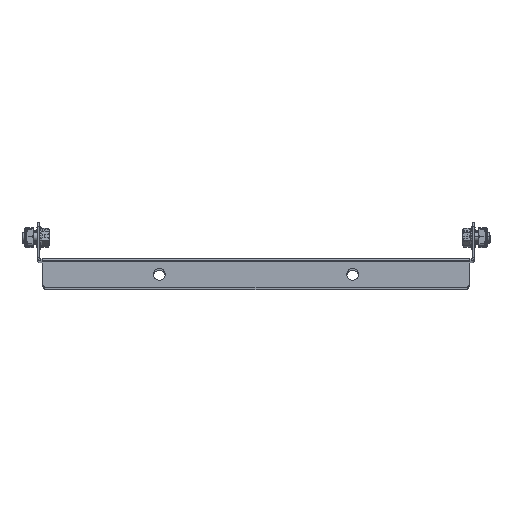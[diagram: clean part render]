
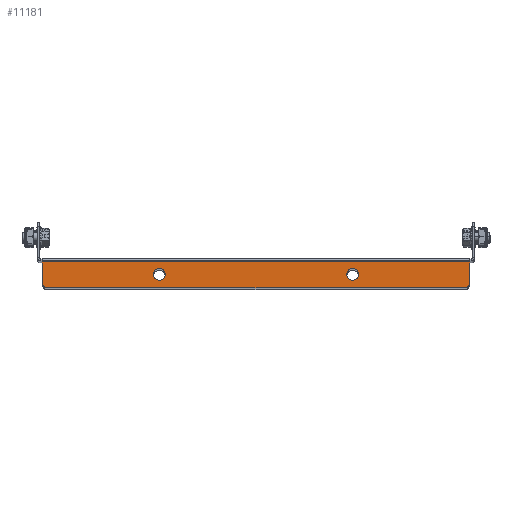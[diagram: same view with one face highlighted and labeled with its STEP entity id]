
A CAD part, top view. The second image highlights one B-rep face of the part: STEP entity #11181.
In plain terms, the highlighted planar face has unit normal (0, 0, 1).
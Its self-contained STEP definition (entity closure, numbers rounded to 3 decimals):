
#47 = AXIS2_PLACEMENT_3D ( 'NONE', #4490, #1942, #14699 ) ;
#136 = CARTESIAN_POINT ( 'NONE',  ( -146., -2.25, 372. ) ) ;
#155 = AXIS2_PLACEMENT_3D ( 'NONE', #8647, #9960, #5922 ) ;
#422 = CARTESIAN_POINT ( 'NONE',  ( 66.008, -6.75, 372. ) ) ;
#430 = ORIENTED_EDGE ( 'NONE', *, *, #718, .T. ) ;
#463 = ORIENTED_EDGE ( 'NONE', *, *, #7097, .T. ) ;
#508 = CARTESIAN_POINT ( 'NONE',  ( -66., -10.75, 372. ) ) ;
#678 = PLANE ( 'NONE',  #14910 ) ;
#718 = EDGE_CURVE ( 'NONE', #4554, #4512, #4583, .T. ) ;
#738 = CARTESIAN_POINT ( 'NONE',  ( 0., 0., 372. ) ) ;
#944 = ORIENTED_EDGE ( 'NONE', *, *, #3873, .F. ) ;
#975 = CARTESIAN_POINT ( 'NONE',  ( 146., -2.25, 372. ) ) ;
#1645 = FACE_BOUND ( 'NONE', #15006, .T. ) ;
#1686 = DIRECTION ( 'NONE',  ( 0., 1., 0. ) ) ;
#1907 = ORIENTED_EDGE ( 'NONE', *, *, #7411, .T. ) ;
#1942 = DIRECTION ( 'NONE',  ( 0., 0., -1. ) ) ;
#3047 = DIRECTION ( 'NONE',  ( 0., 0., -1. ) ) ;
#3711 = AXIS2_PLACEMENT_3D ( 'NONE', #508, #9359, #4368 ) ;
#3750 = EDGE_CURVE ( 'NONE', #7279, #5533, #11828, .T. ) ;
#3859 = CIRCLE ( 'NONE', #155, 4. ) ;
#3873 = EDGE_CURVE ( 'NONE', #6048, #16286, #5662, .T. ) ;
#3908 = VECTOR ( 'NONE', #9556, 1000. ) ;
#4196 = AXIS2_PLACEMENT_3D ( 'NONE', #12628, #8650, #11407 ) ;
#4234 = VERTEX_POINT ( 'NONE', #422 ) ;
#4368 = DIRECTION ( 'NONE',  ( 0., 1., 0. ) ) ;
#4490 = CARTESIAN_POINT ( 'NONE',  ( -66., -10.75, 372. ) ) ;
#4512 = VERTEX_POINT ( 'NONE', #4767 ) ;
#4554 = VERTEX_POINT ( 'NONE', #8656 ) ;
#4583 = CIRCLE ( 'NONE', #4196, 3. ) ;
#4620 = CARTESIAN_POINT ( 'NONE',  ( 0., -2.25, 372. ) ) ;
#4767 = CARTESIAN_POINT ( 'NONE',  ( 146., -17., 372. ) ) ;
#4930 = ORIENTED_EDGE ( 'NONE', *, *, #6911, .T. ) ;
#5272 = EDGE_LOOP ( 'NONE', ( #16144, #463 ) ) ;
#5449 = CIRCLE ( 'NONE', #47, 4. ) ;
#5533 = VERTEX_POINT ( 'NONE', #15777 ) ;
#5662 = LINE ( 'NONE', #4620, #3908 ) ;
#5693 = DIRECTION ( 'NONE',  ( 0., 1., 0. ) ) ;
#5922 = DIRECTION ( 'NONE',  ( 0., 1., 0. ) ) ;
#6019 = EDGE_CURVE ( 'NONE', #4512, #16286, #8460, .T. ) ;
#6048 = VERTEX_POINT ( 'NONE', #136 ) ;
#6509 = VERTEX_POINT ( 'NONE', #12611 ) ;
#6911 = EDGE_CURVE ( 'NONE', #9571, #10044, #5449, .T. ) ;
#7097 = EDGE_CURVE ( 'NONE', #6509, #4234, #3859, .T. ) ;
#7129 = DIRECTION ( 'NONE',  ( 0., 1., 0. ) ) ;
#7194 = CARTESIAN_POINT ( 'NONE',  ( -66., -6.75, 372. ) ) ;
#7279 = VERTEX_POINT ( 'NONE', #8978 ) ;
#7394 = EDGE_CURVE ( 'NONE', #6048, #7279, #16152, .T. ) ;
#7411 = EDGE_CURVE ( 'NONE', #10044, #9571, #12572, .T. ) ;
#7559 = EDGE_CURVE ( 'NONE', #4234, #6509, #13954, .T. ) ;
#7716 = CARTESIAN_POINT ( 'NONE',  ( 146., -20., 372. ) ) ;
#7823 = AXIS2_PLACEMENT_3D ( 'NONE', #15456, #14345, #1686 ) ;
#8460 = LINE ( 'NONE', #7716, #13038 ) ;
#8465 = DIRECTION ( 'NONE',  ( 0., 0., -1. ) ) ;
#8587 = FACE_BOUND ( 'NONE', #5272, .T. ) ;
#8647 = CARTESIAN_POINT ( 'NONE',  ( 66.008, -10.75, 372. ) ) ;
#8650 = DIRECTION ( 'NONE',  ( 0., 0., 1. ) ) ;
#8656 = CARTESIAN_POINT ( 'NONE',  ( 143., -20., 372. ) ) ;
#8978 = CARTESIAN_POINT ( 'NONE',  ( -146., -17., 372. ) ) ;
#9359 = DIRECTION ( 'NONE',  ( 0., 0., -1. ) ) ;
#9556 = DIRECTION ( 'NONE',  ( 1., 0., 0. ) ) ;
#9571 = VERTEX_POINT ( 'NONE', #7194 ) ;
#9960 = DIRECTION ( 'NONE',  ( 0., 0., -1. ) ) ;
#10044 = VERTEX_POINT ( 'NONE', #14779 ) ;
#10830 = ORIENTED_EDGE ( 'NONE', *, *, #7394, .T. ) ;
#11154 = FACE_OUTER_BOUND ( 'NONE', #11794, .T. ) ;
#11181 = ADVANCED_FACE ( 'NONE', ( #1645, #8587, #11154 ), #678, .F. ) ;
#11407 = DIRECTION ( 'NONE',  ( 0., 1., 0. ) ) ;
#11551 = DIRECTION ( 'NONE',  ( 1., 0., 0. ) ) ;
#11577 = CARTESIAN_POINT ( 'NONE',  ( -146., -20., 372. ) ) ;
#11794 = EDGE_LOOP ( 'NONE', ( #12011, #430, #15384, #944, #10830, #14978 ) ) ;
#11828 = CIRCLE ( 'NONE', #7823, 3. ) ;
#11927 = LINE ( 'NONE', #14213, #14900 ) ;
#12011 = ORIENTED_EDGE ( 'NONE', *, *, #12201, .T. ) ;
#12201 = EDGE_CURVE ( 'NONE', #5533, #4554, #11927, .T. ) ;
#12528 = AXIS2_PLACEMENT_3D ( 'NONE', #15954, #8465, #7129 ) ;
#12572 = CIRCLE ( 'NONE', #3711, 4. ) ;
#12611 = CARTESIAN_POINT ( 'NONE',  ( 66.008, -14.75, 372. ) ) ;
#12628 = CARTESIAN_POINT ( 'NONE',  ( 143., -17., 372. ) ) ;
#12860 = DIRECTION ( 'NONE',  ( 0., -1., 0. ) ) ;
#13038 = VECTOR ( 'NONE', #15378, 1000. ) ;
#13954 = CIRCLE ( 'NONE', #12528, 4. ) ;
#14213 = CARTESIAN_POINT ( 'NONE',  ( 146., -20., 372. ) ) ;
#14345 = DIRECTION ( 'NONE',  ( 0., 0., 1. ) ) ;
#14699 = DIRECTION ( 'NONE',  ( 0., 1., 0. ) ) ;
#14779 = CARTESIAN_POINT ( 'NONE',  ( -66., -14.75, 372. ) ) ;
#14900 = VECTOR ( 'NONE', #11551, 1000. ) ;
#14910 = AXIS2_PLACEMENT_3D ( 'NONE', #738, #3047, #5693 ) ;
#14945 = VECTOR ( 'NONE', #12860, 1000. ) ;
#14978 = ORIENTED_EDGE ( 'NONE', *, *, #3750, .T. ) ;
#15006 = EDGE_LOOP ( 'NONE', ( #4930, #1907 ) ) ;
#15378 = DIRECTION ( 'NONE',  ( 0., 1., 0. ) ) ;
#15384 = ORIENTED_EDGE ( 'NONE', *, *, #6019, .T. ) ;
#15456 = CARTESIAN_POINT ( 'NONE',  ( -143., -17., 372. ) ) ;
#15777 = CARTESIAN_POINT ( 'NONE',  ( -143., -20., 372. ) ) ;
#15954 = CARTESIAN_POINT ( 'NONE',  ( 66.008, -10.75, 372. ) ) ;
#16144 = ORIENTED_EDGE ( 'NONE', *, *, #7559, .T. ) ;
#16152 = LINE ( 'NONE', #11577, #14945 ) ;
#16286 = VERTEX_POINT ( 'NONE', #975 ) ;
